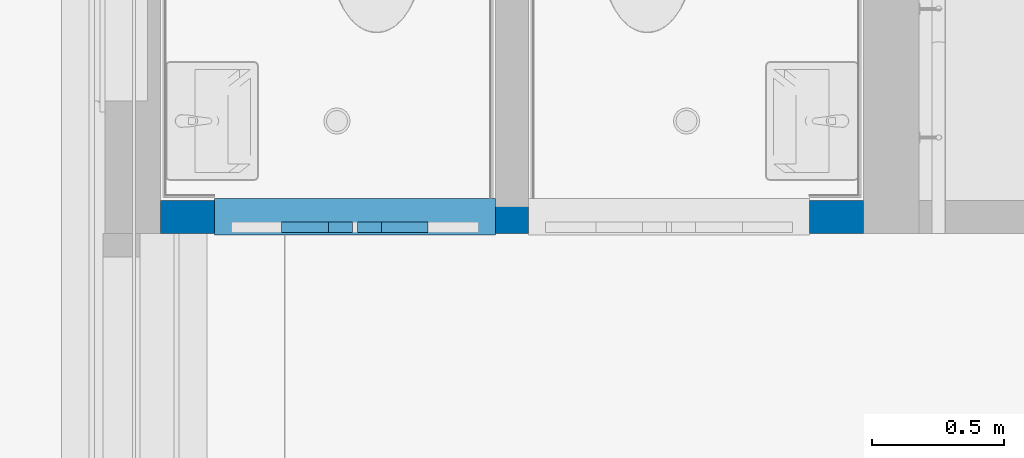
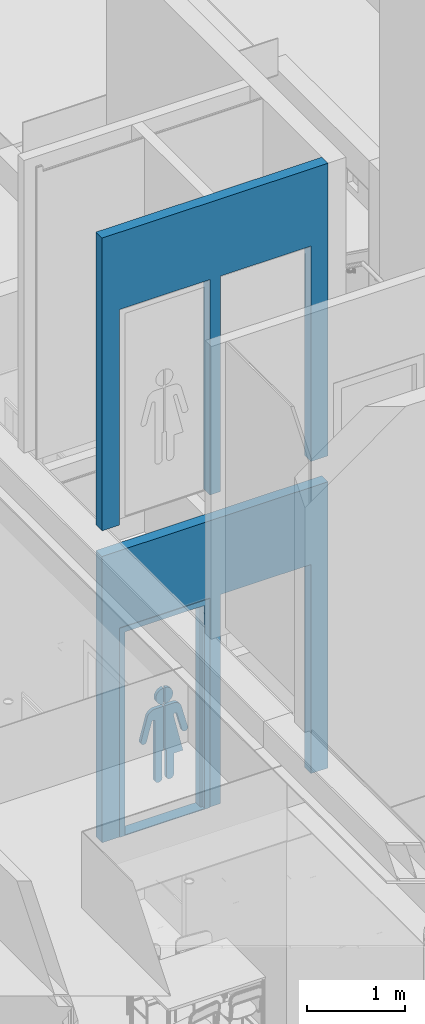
# One storey, part 54 of 347: 2 building element parts, 1 wall, 4 openings, 1 element without a shape of its own.
"""IFC2X3 building model written with IfcOpenShell, lengths in millimetres."""

from ifc_helpers import new_model, entity, si_unit, converted_unit, derived_unit, money_unit, direction, frame, origin_with_axes, place, context, subcontext, project, spatial, faceted_brep, source, transform, mapped, material, type_object, element, fill, aggregate, save


model = new_model("IFC2X3")

# Units and contexts
model_context = context("Model", 3, precision=0.01, world=origin_with_axes(), true_north=direction((0.0, 1.0)))
plan_context = context("Plan", 3, precision=0.01, world=origin_with_axes(), true_north=direction((0.0, 1.0)))
body_context = subcontext(model_context, "Body", "Model", "MODEL_VIEW")
ifc_project = project(units=[si_unit("LENGTHUNIT", "METRE", prefix="MILLI"), si_unit("AREAUNIT", "SQUARE_METRE"), si_unit("VOLUMEUNIT", "CUBIC_METRE"), converted_unit("PLANEANGLEUNIT", "DEGREE", entity("IfcPlaneAngleMeasure", 0.0174532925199), si_unit("PLANEANGLEUNIT", "RADIAN"), dimensions=[0, 0, 0, 0, 0, 0, 0]), money_unit("EUR"), converted_unit("TIMEUNIT", "Year", entity("IfcTimeMeasure", 31556926.0), si_unit("TIMEUNIT", "SECOND"), dimensions=[0, 0, 1, 0, 0, 0, 0]), si_unit("MASSUNIT", "GRAM", prefix="KILO"), si_unit("THERMODYNAMICTEMPERATUREUNIT", "DEGREE_CELSIUS"), si_unit("LUMINOUSINTENSITYUNIT", "LUMEN"), si_unit("ENERGYUNIT", "JOULE", prefix="MEGA"), derived_unit("THERMALCONDUCTANCEUNIT", [(si_unit("POWERUNIT", "WATT"), 1), (si_unit("LENGTHUNIT", "METRE"), -1), (si_unit("THERMODYNAMICTEMPERATUREUNIT", "KELVIN"), -1)]), derived_unit("SPECIFICHEATCAPACITYUNIT", [(si_unit("ENERGYUNIT", "JOULE"), 1), (si_unit("MASSUNIT", "GRAM", prefix="KILO"), -1), (si_unit("THERMODYNAMICTEMPERATUREUNIT", "KELVIN"), -1)]), derived_unit("MASSDENSITYUNIT", [(si_unit("MASSUNIT", "GRAM", prefix="KILO"), 1), (si_unit("VOLUMEUNIT", "CUBIC_METRE"), -1)])], contexts=[model_context, plan_context])

# Site, building, storey
site_placement = place(None, origin_with_axes())
site = spatial("IfcSite", under=ifc_project, at=site_placement, Name="Site", CompositionType="ELEMENT")
building_placement = place(site_placement, origin_with_axes())
building = spatial("IfcBuilding", under=site, at=building_placement, Name="Naam gebouw", CompositionType="ELEMENT")
storey_placement = place(building_placement, origin_with_axes())
storey = spatial("IfcBuildingStorey", under=building, at=storey_placement, Name="begane grond", CompositionType="ELEMENT", Elevation=0.0)

# Wall, openings, door, building element parts
ifc_material_1 = material(Name="ALG - LICHTE SCHEIDINGSWAND")
wall_type = type_object("IfcWallType", Name="ALG LSW 125 125", PredefinedType="NOTDEFINED")
wall_placement = place(storey_placement, frame((35705.0, 30074.9999277, 0.0), z_axis=(0.0, 0.0, 1.0), x_axis=(1.0, 0.0, 0.0)))
wall = element("IfcWall", 1, at=wall_placement, inside=storey, type_object=wall_type, material=ifc_material_1, Name="22_GF 125 ECO DGS/2.75.2A", context=body_context, shape_type="Brep", body=[
    faceted_brep([(1392.5, 125.0, 2600.0), (1392.5, 125.0, 0.0), (1267.5, 125.0, 0.0), (1267.5, 125.0, 2600.0), (203.5, 125.0, 2600.0), (203.5, 125.0, 0.0), (0.0, 125.0, 0.0), (0.0, 125.0, 3560.0), (2660.0, 125.0, 3560.0), (2660.0, 125.0, 0.0), (2456.5, 125.0, 0.0), (2456.5, 125.0, 2600.0), (1392.5, 0.0, 2600.0), (1392.5, 0.0, 0.0), (1267.5, 0.0, 0.0), (1267.5, 0.0, 2600.0), (203.5, 0.0, 2600.0), (203.5, 0.0, 0.0), (0.0, 0.0, 0.0), (0.0, 0.0, 3560.0), (2660.0, 0.0, 3560.0), (2660.0, 0.0, 0.0), (2456.5, 0.0, 0.0), (2456.5, 0.0, 2600.0)], [[[0, 1, 2, 3, 4, 5, 6, 7, 8, 9, 10, 11]], [[1, 0, 12, 13]], [[1, 13, 14, 2]], [[2, 14, 15, 3]], [[3, 15, 16, 4]], [[4, 16, 17, 5]], [[17, 18, 6, 5]], [[7, 6, 18, 19]], [[8, 7, 19, 20]], [[20, 21, 9, 8]], [[22, 10, 9, 21]], [[11, 10, 22, 23]], [[0, 11, 23, 12]], [[23, 22, 21, 20, 19, 18, 17, 16, 15, 14, 13, 12]]]),
    faceted_brep([(203.5, 125.0, 6560.0), (203.5, 125.0, 3960.0), (203.5, 125.0, 3880.0), (0.0, 125.0, 3880.0), (0.0, 125.0, 7520.0), (2660.0, 125.0, 7520.0), (2660.0, 125.0, 3880.0), (2456.5, 125.0, 3880.0), (2456.5, 125.0, 3960.0), (2456.5, 125.0, 6560.0), (1392.5, 125.0, 6560.0), (1392.5, 125.0, 3960.0), (1392.5, 125.0, 3880.0), (1267.5, 125.0, 3880.0), (1267.5, 125.0, 3960.0), (1267.5, 125.0, 6560.0), (203.5, 0.0, 6560.0), (203.5, 0.0, 3960.0), (203.5, 0.0, 3880.0), (0.0, 0.0, 3880.0), (0.0, 0.0, 7520.0), (2660.0, 0.0, 7520.0), (2660.0, 0.0, 3880.0), (2456.5, 0.0, 3880.0), (2456.5, 0.0, 3960.0), (2456.5, 0.0, 6560.0), (1392.5, 0.0, 6560.0), (1392.5, 0.0, 3960.0), (1392.5, 0.0, 3880.0), (1267.5, 0.0, 3880.0), (1267.5, 0.0, 3960.0), (1267.5, 0.0, 6560.0)], [[[0, 1, 2, 3, 4, 5, 6, 7, 8, 9, 10, 11, 12, 13, 14, 15]], [[1, 0, 16, 17]], [[1, 17, 18, 2]], [[18, 19, 3, 2]], [[19, 20, 4, 3]], [[4, 20, 21, 5]], [[6, 5, 21, 22]], [[7, 6, 22, 23]], [[8, 7, 23, 24]], [[8, 24, 25, 9]], [[9, 25, 26, 10]], [[10, 26, 27, 11]], [[27, 28, 12, 11]], [[28, 29, 13, 12]], [[30, 14, 13, 29]], [[15, 14, 30, 31]], [[0, 15, 31, 16]], [[31, 30, 29, 28, 27, 26, 25, 24, 23, 22, 21, 20, 19, 18, 17, 16]]]),
])
opening_1_placement = place(wall_placement, frame((735.5, 0.0, 0.0), z_axis=(0.0, 0.0, 1.0), x_axis=(1.0, 0.0, 0.0)))
opening_1 = element("IfcOpeningElement", 2, at=opening_1_placement, cuts=wall, Name="32_02.05", context=body_context, shape_type="Brep", body=[
    faceted_brep([(-532.0, 125.0, 2600.0), (-532.0, 125.0, 0.0), (-532.0, -257.0, 0.0), (-532.0, -257.0, 2600.0), (532.0, 125.0, 2600.0), (532.0, 125.0, 0.0), (532.0, -257.0, 0.0), (532.0, -257.0, 2600.0)], [[[0, 1, 2, 3]], [[0, 4, 5, 1]], [[1, 5, 6, 2]], [[3, 2, 6, 7]], [[4, 0, 3, 7]], [[5, 4, 7, 6]]]),
])
opening_2_placement = place(wall_placement, frame((1924.5, 0.0, 0.0), z_axis=(0.0, 0.0, 1.0), x_axis=(1.0, 0.0, 0.0)))
element("IfcOpeningElement", 3, at=opening_2_placement, cuts=wall, Name="32_02.05", context=body_context, shape_type="Brep", body=[
    faceted_brep([(-532.0, 125.0, 2600.0), (-532.0, 125.0, 0.0), (-532.0, -257.0, 0.0), (-532.0, -257.0, 2600.0), (532.0, 125.0, 2600.0), (532.0, 125.0, 0.0), (532.0, -257.0, 0.0), (532.0, -257.0, 2600.0)], [[[0, 1, 2, 3]], [[0, 4, 5, 1]], [[1, 5, 6, 2]], [[3, 2, 6, 7]], [[4, 0, 3, 7]], [[5, 4, 7, 6]]]),
])
opening_3_placement = place(wall_placement, frame((1924.5, 0.0, 3960.0), z_axis=(0.0, 0.0, 1.0), x_axis=(1.0, 0.0, 0.0)))
element("IfcOpeningElement", 4, at=opening_3_placement, cuts=wall, Name="32_02.05", context=body_context, shape_type="Brep", body=[
    faceted_brep([(-532.0, -125.0, 0.0), (-532.0, -125.0, 2600.0), (-532.0, 257.0, 2600.0), (-532.0, 257.0, 0.0), (532.0, -125.0, 0.0), (532.0, -125.0, 2600.0), (532.0, 257.0, 2600.0), (532.0, 257.0, 0.0)], [[[0, 1, 2, 3]], [[0, 4, 5, 1]], [[1, 5, 6, 2]], [[3, 2, 6, 7]], [[4, 0, 3, 7]], [[5, 4, 7, 6]]]),
])
opening_4_placement = place(wall_placement, frame((735.5, 0.0, 3960.0), z_axis=(0.0, 0.0, 1.0), x_axis=(1.0, 0.0, 0.0)))
element("IfcOpeningElement", 5, at=opening_4_placement, cuts=wall, Name="32_02.05", context=body_context, shape_type="Brep", body=[
    faceted_brep([(-532.0, -125.0, 0.0), (-532.0, -125.0, 2600.0), (-532.0, 257.0, 2600.0), (-532.0, 257.0, 0.0), (532.0, -125.0, 0.0), (532.0, -125.0, 2600.0), (532.0, 257.0, 2600.0), (532.0, 257.0, 0.0)], [[[0, 1, 2, 3]], [[0, 4, 5, 1]], [[1, 5, 6, 2]], [[3, 2, 6, 7]], [[4, 0, 3, 7]], [[5, 4, 7, 6]]]),
])
door_style = type_object("IfcDoorStyle", Name="D1 25", ConstructionType="NOTDEFINED", OperationType="SINGLE_SWING_RIGHT", ParameterTakesPrecedence=False, Sizeable=False)
door_placement = place(opening_1_placement, frame((532.0, 0.0, 0.0), z_axis=(0.0, 0.0, 1.0), x_axis=(-1.0, 0.0, 0.0)))
door = element("IfcDoor", 6, at=door_placement, inside=storey, type_object=door_style, Name="32_02.05", ObjectType="DOOR", OverallHeight=2600.0, OverallWidth=1064.0)
fill(opening_1, door)
shared_shape_1 = source(origin_with_axes(), body_context, "Body", "Brep", [
    faceted_brep([(-467.0, -40.0, 10.0), (-442.0, -40.0, 10.0), (-442.0, -139.0, 10.0), (442.0, -139.0, 10.0), (442.0, -40.0, 10.0), (467.0, -40.0, 10.0), (467.0, 0.0, 10.0), (-467.0, 0.0, 10.0), (-467.0, -40.0, 0.0), (-442.0, -40.0, 0.0), (-442.0, -139.0, 0.0), (442.0, -139.0, 0.0), (442.0, -40.0, 0.0), (467.0, -40.0, 0.0), (467.0, 0.0, 0.0), (-467.0, 0.0, 0.0)], [[[0, 1, 2, 3, 4, 5, 6, 7]], [[1, 0, 8, 9]], [[10, 2, 1, 9]], [[2, 10, 11, 3]], [[3, 11, 12, 4]], [[5, 4, 12, 13]], [[13, 14, 6, 5]], [[15, 7, 6, 14]], [[8, 0, 7, 15]], [[9, 8, 15, 14, 13, 12, 11, 10]]]),
    faceted_brep([(-442.0, -50.0, 0.0), (-442.0, -50.0, 2510.0), (-442.0, -139.0, 2510.0), (-442.0, -139.0, 0.0), (-467.0, -50.0, 2510.0), (-467.0, -50.0, 0.0), (-467.0, 0.0, 2510.0), (-532.0, 0.0, 2510.0), (-532.0, -139.0, 2510.0), (-532.0, -139.0, 0.0), (-532.0, 0.0, 0.0), (-467.0, 0.0, 0.0)], [[[0, 1, 2, 3]], [[4, 1, 0, 5]], [[4, 6, 7, 8, 2, 1]], [[3, 2, 8, 9]], [[5, 0, 3, 9, 10, 11]], [[6, 4, 5, 11]], [[6, 11, 10, 7]], [[10, 9, 8, 7]]]),
    faceted_brep([(467.0, -50.0, 2510.0), (442.0, -50.0, 2510.0), (442.0, -139.0, 2510.0), (532.0, -139.0, 2510.0), (532.0, 0.0, 2510.0), (467.0, 0.0, 2510.0), (467.0, -50.0, 0.0), (442.0, -50.0, 0.0), (442.0, -139.0, 0.0), (532.0, -139.0, 0.0), (532.0, 0.0, 0.0), (467.0, 0.0, 0.0)], [[[0, 1, 2, 3, 4, 5]], [[1, 0, 6, 7]], [[1, 7, 8, 2]], [[3, 2, 8, 9]], [[4, 3, 9, 10]], [[11, 5, 4, 10]], [[0, 5, 11, 6]], [[6, 11, 10, 9, 8, 7]]]),
    faceted_brep([(-467.0, 0.0, 2535.0), (-467.0, 0.0, 2510.0), (-532.0, 0.0, 2510.0), (-532.0, 0.0, 2600.0), (532.0, 0.0, 2600.0), (532.0, 0.0, 2510.0), (467.0, 0.0, 2510.0), (467.0, 0.0, 2535.0), (-467.0, -50.0, 2535.0), (-467.0, -50.0, 2510.0), (-442.0, -50.0, 2510.0), (-442.0, -139.0, 2510.0), (-532.0, -139.0, 2510.0), (-532.0, -139.0, 2600.0), (532.0, -139.0, 2600.0), (532.0, -139.0, 2510.0), (467.0, -50.0, 2510.0), (442.0, -139.0, 2510.0), (442.0, -50.0, 2510.0), (467.0, -50.0, 2535.0)], [[[0, 1, 2, 3, 4, 5, 6, 7]], [[1, 0, 8, 9]], [[9, 10, 11, 12, 2, 1]], [[2, 12, 13, 3]], [[3, 13, 14, 4]], [[4, 14, 15, 5]], [[16, 6, 5, 15, 17, 18]], [[7, 6, 16, 19]], [[0, 7, 19, 8]], [[16, 18, 10, 9, 8, 19]], [[10, 18, 17, 11]], [[17, 15, 14, 13, 12, 11]]]),
])
building_element_part_1_placement = place(door_placement, origin_with_axes())
building_element_part_1 = element("IfcBuildingElementPart", 7, at=building_element_part_1_placement, context=body_context, shape_type="MappedRepresentation", body=[
    mapped(shared_shape_1, transform((532.0, 7.0, 0.0))),
])
ifc_material_2 = material(Name="Glas sticker")
shared_shape_2 = source(origin_with_axes(), body_context, "Body", "Brep", [
    faceted_brep([(201.58891637, -10.0, 1368.954906), (201.58891637, -50.0, 1368.954906), (276.62552127, -50.0, 1088.44895872), (276.62552127, -10.0, 1088.44895872), (195.949154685, -10.0, 1385.59511164), (195.949154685, -50.0, 1385.59511164), (187.162658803, -50.0, 1400.83915132), (175.866957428, -50.0, 1414.32329606), (162.405264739, -50.0, 1425.63783693), (147.186607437, -50.0, 1434.43898735), (130.673396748, -50.0, 1440.4593288), (113.367378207, -50.0, 1443.51593625), (104.580882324, -50.0, 1443.51593625), (10.0430200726, -50.0, 1443.51593625), (10.0430200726, -50.0, 890.229090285), (25.1075218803, -50.0, 890.229090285), (25.1075218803, -50.0, 563.286854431), (24.6932816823, -50.0, 557.54197595), (25.5217620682, -50.0, 550.06099695), (27.6345513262, -50.0, 542.8377749), (30.9674534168, -50.0, 536.091783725), (35.4191998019, -50.0, 530.027996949), (40.8545264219, -50.0, 524.830659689), (47.1082836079, -50.0, 520.657690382), (53.9904541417, -50.0, 517.635882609), (61.2919267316, -50.0, 515.857052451), (68.790849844, -50.0, 515.375248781), (76.2593724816, -50.0, 516.205110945), (83.4705673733, -50.0, 518.321424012), (90.2053260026, -50.0, 521.659884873), (96.2590161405, -50.0, 526.119056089), (101.447699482, -50.0, 531.563447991), (105.613720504, -50.0, 537.827635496), (108.630496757, -50.0, 544.721284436), (110.406365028, -50.0, 552.034934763), (110.887366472, -50.0, 559.546364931), (110.473126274, -50.0, 563.286854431), (110.473126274, -50.0, 1292.61952191), (110.695072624, -50.0, 1294.3081838), (111.717711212, -50.0, 1297.5569887), (113.288023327, -50.0, 1300.57856146), (115.358295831, -50.0, 1303.2810931), (117.865624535, -50.0, 1305.58246859), (120.733825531, -50.0, 1307.41276178), (123.875749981, -50.0, 1308.71636013), (127.195932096, -50.0, 1309.45365449), (130.593489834, -50.0, 1309.60224253), (133.965190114, -50.0, 1309.15760948), (137.208585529, -50.0, 1308.13326528), (140.225127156, -50.0, 1306.56033414), (142.923158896, -50.0, 1304.48660874), (145.220702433, -50.0, 1301.97509819), (147.047948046, -50.0, 1299.10211348), (148.349375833, -50.0, 1295.95494878), (149.011836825, -50.0, 1292.61952191), (207.923578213, -50.0, 1073.19870026), (208.722214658, -50.0, 1070.21469297), (211.322258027, -50.0, 1064.63143877), (214.850708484, -50.0, 1059.58525256), (219.200355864, -50.0, 1055.22946015), (224.239038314, -50.0, 1051.6964101), (229.813658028, -50.0, 1049.09345233), (235.754833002, -50.0, 1047.49967641), (241.882043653, -50.0, 1046.96350842), (248.009117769, -50.0, 1047.50123953), (253.949887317, -50.0, 1049.09653107), (259.523845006, -50.0, 1051.70091091), (264.561628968, -50.0, 1055.23524628), (268.910168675, -50.0, 1059.59214821), (272.437335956, -50.0, 1064.63923441), (275.035959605, -50.0, 1070.22315174), (276.627081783, -50.0, 1076.17423568), (277.162357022, -50.0, 1082.31166558), (277.162357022, -10.0, 1082.31166558), (276.627081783, -10.0, 1076.17423568), (275.035959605, -10.0, 1070.22315174), (272.437335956, -10.0, 1064.63923441), (268.910168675, -10.0, 1059.59214821), (264.561628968, -10.0, 1055.23524628), (259.523845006, -10.0, 1051.70091091), (253.949887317, -10.0, 1049.09653107), (248.009117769, -10.0, 1047.50123953), (241.882043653, -10.0, 1046.96350842), (235.754833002, -10.0, 1047.49967641), (229.813658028, -10.0, 1049.09345233), (224.239038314, -10.0, 1051.6964101), (219.200355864, -10.0, 1055.22946015), (214.850708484, -10.0, 1059.58525256), (211.322258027, -10.0, 1064.63143877), (208.722214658, -10.0, 1070.21469297), (207.923578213, -10.0, 1073.19870026), (149.011836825, -10.0, 1292.61952191), (148.349375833, -10.0, 1295.95494878), (147.047948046, -10.0, 1299.10211348), (145.220702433, -10.0, 1301.97509819), (142.923158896, -10.0, 1304.48660874), (140.225127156, -10.0, 1306.56033414), (137.208585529, -10.0, 1308.13326528), (133.965190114, -10.0, 1309.15760948), (130.593489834, -10.0, 1309.60224253), (127.195932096, -10.0, 1309.45365449), (123.875749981, -10.0, 1308.71636013), (120.733825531, -10.0, 1307.41276178), (117.865624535, -10.0, 1305.58246859), (115.358295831, -10.0, 1303.2810931), (113.288023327, -10.0, 1300.57856146), (111.717711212, -10.0, 1297.5569887), (110.695072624, -10.0, 1294.3081838), (110.473126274, -10.0, 1292.61952191), (110.473126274, -10.0, 563.286854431), (110.887366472, -10.0, 559.546364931), (110.406365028, -10.0, 552.034934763), (108.630496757, -10.0, 544.721284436), (105.613720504, -10.0, 537.827635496), (101.447699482, -10.0, 531.563447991), (96.2590161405, -10.0, 526.119056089), (90.2053260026, -10.0, 521.659884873), (83.4705673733, -10.0, 518.321424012), (76.2593724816, -10.0, 516.205110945), (68.790849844, -10.0, 515.375248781), (61.2919267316, -10.0, 515.857052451), (53.9904541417, -10.0, 517.635882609), (47.1082836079, -10.0, 520.657690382), (40.8545264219, -10.0, 524.830659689), (35.4191998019, -10.0, 530.027996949), (30.9674534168, -10.0, 536.091783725), (27.6345513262, -10.0, 542.8377749), (25.5217620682, -10.0, 550.06099695), (24.6932816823, -10.0, 557.54197595), (25.1075218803, -10.0, 563.286854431), (25.1075218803, -10.0, 890.229090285), (10.0430200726, -10.0, 890.229090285), (10.0430200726, -10.0, 1443.51593625), (104.580882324, -10.0, 1443.51593625), (113.367378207, -10.0, 1443.51593625), (130.673396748, -10.0, 1440.4593288), (147.186607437, -10.0, 1434.43898735), (162.405264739, -10.0, 1425.63783693), (175.866957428, -10.0, 1414.32329606), (187.162658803, -10.0, 1400.83915132)], [[[0, 1, 2, 3]], [[4, 5, 1, 0]], [[1, 5, 6, 7, 8, 9, 10, 11, 12, 13, 14, 15, 16, 17, 18, 19, 20, 21, 22, 23, 24, 25, 26, 27, 28, 29, 30, 31, 32, 33, 34, 35, 36, 37, 38, 39, 40, 41, 42, 43, 44, 45, 46, 47, 48, 49, 50, 51, 52, 53, 54, 55, 56, 57, 58, 59, 60, 61, 62, 63, 64, 65, 66, 67, 68, 69, 70, 71, 72, 2]], [[3, 2, 72, 73]], [[0, 3, 73, 74, 75, 76, 77, 78, 79, 80, 81, 82, 83, 84, 85, 86, 87, 88, 89, 90, 91, 92, 93, 94, 95, 96, 97, 98, 99, 100, 101, 102, 103, 104, 105, 106, 107, 108, 109, 110, 111, 112, 113, 114, 115, 116, 117, 118, 119, 120, 121, 122, 123, 124, 125, 126, 127, 128, 129, 130, 131, 132, 133, 134, 135, 136, 137, 138, 139, 4]], [[139, 6, 5, 4]], [[138, 7, 6, 139]], [[137, 8, 7, 138]], [[136, 9, 8, 137]], [[135, 10, 9, 136]], [[134, 11, 10, 135]], [[133, 12, 11, 134]], [[132, 13, 12, 133]], [[131, 14, 13, 132]], [[130, 15, 14, 131]], [[129, 16, 15, 130]], [[128, 17, 16, 129]], [[127, 18, 17, 128]], [[126, 19, 18, 127]], [[125, 20, 19, 126]], [[124, 21, 20, 125]], [[123, 22, 21, 124]], [[122, 23, 22, 123]], [[121, 24, 23, 122]], [[120, 25, 24, 121]], [[119, 26, 25, 120]], [[118, 27, 26, 119]], [[117, 28, 27, 118]], [[116, 29, 28, 117]], [[115, 30, 29, 116]], [[114, 31, 30, 115]], [[113, 32, 31, 114]], [[112, 33, 32, 113]], [[111, 34, 33, 112]], [[110, 35, 34, 111]], [[109, 36, 35, 110]], [[108, 37, 36, 109]], [[107, 38, 37, 108]], [[106, 39, 38, 107]], [[105, 40, 39, 106]], [[104, 41, 40, 105]], [[103, 42, 41, 104]], [[102, 43, 42, 103]], [[101, 44, 43, 102]], [[100, 45, 44, 101]], [[99, 46, 45, 100]], [[98, 47, 46, 99]], [[97, 48, 47, 98]], [[96, 49, 48, 97]], [[95, 50, 49, 96]], [[94, 51, 50, 95]], [[93, 52, 51, 94]], [[92, 53, 52, 93]], [[91, 54, 53, 92]], [[90, 55, 54, 91]], [[89, 56, 55, 90]], [[88, 57, 56, 89]], [[87, 58, 57, 88]], [[86, 59, 58, 87]], [[85, 60, 59, 86]], [[84, 61, 60, 85]], [[83, 62, 61, 84]], [[82, 63, 62, 83]], [[81, 64, 63, 82]], [[80, 65, 64, 81]], [[79, 66, 65, 80]], [[78, 67, 66, 79]], [[77, 68, 67, 78]], [[76, 69, 68, 77]], [[75, 70, 69, 76]], [[74, 71, 70, 75]], [[73, 72, 71, 74]]]),
    faceted_brep([(-10.0430200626, -10.0, 890.229090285), (-10.0430200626, -50.0, 890.229090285), (-25.1075218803, -50.0, 890.229090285), (-25.1075218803, -10.0, 890.229090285), (-10.0430200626, -10.0, 1443.51593625), (-10.0430200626, -50.0, 1443.51593625), (-104.580882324, -50.0, 1443.51593625), (-122.087001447, -50.0, 1442.36606156), (-139.061208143, -50.0, 1437.81025123), (-154.98774758, -50.0, 1430.37119778), (-169.382699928, -50.0, 1420.27493311), (-181.808681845, -50.0, 1407.82822709), (-191.888136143, -50.0, 1393.40926659), (-199.31480372, -50.0, 1377.45616444), (-201.58891637, -50.0, 1368.954906), (-275.831520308, -50.0, 1091.41563724), (-276.62708117, -50.0, 1088.44009521), (-277.162355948, -50.0, 1082.30266527), (-276.625519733, -50.0, 1076.16537218), (-275.032884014, -50.0, 1070.21469446), (-272.432840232, -50.0, 1064.63144045), (-268.904389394, -50.0, 1059.58525451), (-264.554741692, -50.0, 1055.22946244), (-259.516058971, -50.0, 1051.69641276), (-253.941439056, -50.0, 1049.09345542), (-248.000263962, -50.0, 1047.49967995), (-241.873053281, -50.0, 1046.96351241), (-235.745979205, -50.0, 1047.50124399), (-229.805209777, -50.0, 1049.09653598), (-224.231252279, -50.0, 1051.70091623), (-219.193468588, -50.0, 1055.235252), (-214.844929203, -50.0, 1059.59215425), (-211.317762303, -50.0, 1064.63924071), (-208.719139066, -50.0, 1070.22315824), (-207.923578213, -50.0, 1073.19870027), (-149.227842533, -50.0, 1292.61952191), (-149.003554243, -50.0, 1294.42542469), (-147.935653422, -50.0, 1297.90433437), (-146.280875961, -50.0, 1301.14464328), (-144.089501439, -50.0, 1304.04789628), (-141.428113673, -50.0, 1306.52587948), (-138.377577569, -50.0, 1308.50330061), (-135.030582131, -50.0, 1309.92007677), (-131.488824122, -50.0, 1310.73315989), (-127.859918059, -50.0, 1310.91784487), (-124.254126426, -50.0, 1310.46852015), (-120.781009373, -50.0, 1309.39883823), (-117.546095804, -50.0, 1307.74130085), (-114.647676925, -50.0, 1305.54627145), (-112.173819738, -50.0, 1302.8804449), (-110.199691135, -50.0, 1299.82482097), (-108.785274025, -50.0, 1296.47224326), (-108.013455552, -50.0, 1292.61952191), (-219.866038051, -50.0, 814.780876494), (-110.473126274, -50.0, 814.780876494), (-110.473126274, -50.0, 563.286854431), (-110.887366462, -50.0, 557.54197595), (-110.058886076, -50.0, 550.06099695), (-107.946096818, -50.0, 542.8377749), (-104.613194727, -50.0, 536.091783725), (-100.161448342, -50.0, 530.027996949), (-94.7261217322, -50.0, 524.830659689), (-88.4723645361, -50.0, 520.657690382), (-81.5901940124, -50.0, 517.635882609), (-74.2887214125, -50.0, 515.857052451), (-66.7897983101, -50.0, 515.375248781), (-59.3212756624, -50.0, 516.205110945), (-52.1100807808, -50.0, 518.321424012), (-45.3753221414, -50.0, 521.659884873), (-39.3216320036, -50.0, 526.119056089), (-34.1329486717, -50.0, 531.563447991), (-29.9669276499, -50.0, 537.827635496), (-26.9501513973, -50.0, 544.721284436), (-25.1742831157, -50.0, 552.034934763), (-24.6932816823, -50.0, 559.546364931), (-25.1075218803, -50.0, 563.286854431), (-25.1075218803, -10.0, 563.286854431), (-24.6932816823, -10.0, 559.546364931), (-25.1742831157, -10.0, 552.034934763), (-26.9501513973, -10.0, 544.721284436), (-29.9669276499, -10.0, 537.827635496), (-34.1329486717, -10.0, 531.563447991), (-39.3216320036, -10.0, 526.119056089), (-45.3753221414, -10.0, 521.659884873), (-52.1100807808, -10.0, 518.321424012), (-59.3212756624, -10.0, 516.205110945), (-66.7897983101, -10.0, 515.375248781), (-74.2887214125, -10.0, 515.857052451), (-81.5901940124, -10.0, 517.635882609), (-88.4723645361, -10.0, 520.657690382), (-94.7261217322, -10.0, 524.830659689), (-100.161448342, -10.0, 530.027996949), (-104.613194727, -10.0, 536.091783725), (-107.946096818, -10.0, 542.8377749), (-110.058886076, -10.0, 550.06099695), (-110.887366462, -10.0, 557.54197595), (-110.473126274, -10.0, 563.286854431), (-110.473126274, -10.0, 814.780876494), (-219.866038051, -10.0, 814.780876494), (-108.013455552, -10.0, 1292.61952191), (-108.785274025, -10.0, 1296.47224326), (-110.199691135, -10.0, 1299.82482097), (-112.173819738, -10.0, 1302.8804449), (-114.647676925, -10.0, 1305.54627145), (-117.546095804, -10.0, 1307.74130085), (-120.781009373, -10.0, 1309.39883823), (-124.254126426, -10.0, 1310.46852015), (-127.859918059, -10.0, 1310.91784487), (-131.488824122, -10.0, 1310.73315989), (-135.030582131, -10.0, 1309.92007677), (-138.377577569, -10.0, 1308.50330061), (-141.428113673, -10.0, 1306.52587948), (-144.089501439, -10.0, 1304.04789628), (-146.280875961, -10.0, 1301.14464328), (-147.935653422, -10.0, 1297.90433437), (-149.003554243, -10.0, 1294.42542469), (-149.227842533, -10.0, 1292.61952191), (-207.923578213, -10.0, 1073.19870027), (-208.719139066, -10.0, 1070.22315824), (-211.317762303, -10.0, 1064.63924071), (-214.844929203, -10.0, 1059.59215425), (-219.193468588, -10.0, 1055.235252), (-224.231252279, -10.0, 1051.70091623), (-229.805209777, -10.0, 1049.09653598), (-235.745979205, -10.0, 1047.50124399), (-241.873053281, -10.0, 1046.96351241), (-248.000263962, -10.0, 1047.49967995), (-253.941439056, -10.0, 1049.09345542), (-259.516058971, -10.0, 1051.69641276), (-264.554741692, -10.0, 1055.22946244), (-268.904389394, -10.0, 1059.58525451), (-272.432840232, -10.0, 1064.63144045), (-275.032884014, -10.0, 1070.21469446), (-276.625519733, -10.0, 1076.16537218), (-277.162355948, -10.0, 1082.30266527), (-276.62708117, -10.0, 1088.44009521), (-275.831520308, -10.0, 1091.41563724), (-201.58891637, -10.0, 1368.954906), (-199.31480372, -10.0, 1377.45616444), (-191.888136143, -10.0, 1393.40926659), (-181.808681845, -10.0, 1407.82822709), (-169.382699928, -10.0, 1420.27493311), (-154.98774758, -10.0, 1430.37119778), (-139.061208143, -10.0, 1437.81025123), (-122.087001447, -10.0, 1442.36606156), (-104.580882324, -10.0, 1443.51593625)], [[[0, 1, 2, 3]], [[4, 5, 1, 0]], [[1, 5, 6, 7, 8, 9, 10, 11, 12, 13, 14, 15, 16, 17, 18, 19, 20, 21, 22, 23, 24, 25, 26, 27, 28, 29, 30, 31, 32, 33, 34, 35, 36, 37, 38, 39, 40, 41, 42, 43, 44, 45, 46, 47, 48, 49, 50, 51, 52, 53, 54, 55, 56, 57, 58, 59, 60, 61, 62, 63, 64, 65, 66, 67, 68, 69, 70, 71, 72, 73, 74, 75, 2]], [[3, 2, 75, 76]], [[0, 3, 76, 77, 78, 79, 80, 81, 82, 83, 84, 85, 86, 87, 88, 89, 90, 91, 92, 93, 94, 95, 96, 97, 98, 99, 100, 101, 102, 103, 104, 105, 106, 107, 108, 109, 110, 111, 112, 113, 114, 115, 116, 117, 118, 119, 120, 121, 122, 123, 124, 125, 126, 127, 128, 129, 130, 131, 132, 133, 134, 135, 136, 137, 138, 139, 140, 141, 142, 143, 144, 145, 4]], [[145, 6, 5, 4]], [[144, 7, 6, 145]], [[143, 8, 7, 144]], [[142, 9, 8, 143]], [[141, 10, 9, 142]], [[140, 11, 10, 141]], [[139, 12, 11, 140]], [[138, 13, 12, 139]], [[137, 14, 13, 138]], [[136, 15, 14, 137]], [[135, 16, 15, 136]], [[134, 17, 16, 135]], [[133, 18, 17, 134]], [[132, 19, 18, 133]], [[131, 20, 19, 132]], [[130, 21, 20, 131]], [[129, 22, 21, 130]], [[128, 23, 22, 129]], [[127, 24, 23, 128]], [[126, 25, 24, 127]], [[125, 26, 25, 126]], [[124, 27, 26, 125]], [[123, 28, 27, 124]], [[122, 29, 28, 123]], [[121, 30, 29, 122]], [[120, 31, 30, 121]], [[119, 32, 31, 120]], [[118, 33, 32, 119]], [[117, 34, 33, 118]], [[116, 35, 34, 117]], [[115, 36, 35, 116]], [[114, 37, 36, 115]], [[113, 38, 37, 114]], [[112, 39, 38, 113]], [[111, 40, 39, 112]], [[110, 41, 40, 111]], [[109, 42, 41, 110]], [[108, 43, 42, 109]], [[107, 44, 43, 108]], [[106, 45, 44, 107]], [[105, 46, 45, 106]], [[104, 47, 46, 105]], [[103, 48, 47, 104]], [[102, 49, 48, 103]], [[101, 50, 49, 102]], [[100, 51, 50, 101]], [[99, 52, 51, 100]], [[98, 53, 52, 99]], [[97, 54, 53, 98]], [[96, 55, 54, 97]], [[95, 56, 55, 96]], [[94, 57, 56, 95]], [[93, 58, 57, 94]], [[92, 59, 58, 93]], [[91, 60, 59, 92]], [[90, 61, 60, 91]], [[89, 62, 61, 90]], [[88, 63, 62, 89]], [[87, 64, 63, 88]], [[86, 65, 64, 87]], [[85, 66, 65, 86]], [[84, 67, 66, 85]], [[83, 68, 67, 84]], [[82, 69, 68, 83]], [[81, 70, 69, 82]], [[80, 71, 70, 81]], [[79, 72, 71, 80]], [[78, 73, 72, 79]], [[77, 74, 73, 78]], [[76, 75, 74, 77]]]),
    faceted_brep([(-10.0430200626, -10.0, 1669.35630499), (-10.0430200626, -50.0, 1669.35630499), (-10.0430200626, -50.0, 1469.16959144), (-10.0430200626, -10.0, 1469.16959144), (-26.0925144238, -10.0, 1666.80395031), (-26.0925144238, -50.0, 1666.80395031), (-42.6057251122, -50.0, 1660.78360886), (-57.8243824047, -50.0, 1651.98245845), (-71.2860751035, -50.0, 1640.66791757), (-82.5817764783, -50.0, 1627.18377283), (-91.368272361, -50.0, 1611.93973315), (-97.3785895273, -50.0, 1595.39898096), (-100.430107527, -50.0, 1578.06409863), (-100.430107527, -50.0, 1569.26294821), (-99.4997261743, -50.0, 1553.01203348), (-95.1708587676, -50.0, 1535.9521583), (-87.9502729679, -50.0, 1519.90441461), (-78.0573626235, -50.0, 1505.35640498), (-65.7927188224, -50.0, 1492.75016333), (-51.5289965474, -50.0, 1482.46872393), (-35.6995917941, -50.0, 1474.82448312), (-18.7854730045, -50.0, 1470.04970729), (-18.7854730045, -10.0, 1470.04970729), (-35.6995917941, -10.0, 1474.82448312), (-51.5289965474, -10.0, 1482.46872393), (-65.7927188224, -10.0, 1492.75016333), (-78.0573626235, -10.0, 1505.35640498), (-87.9502729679, -10.0, 1519.90441461), (-95.1708587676, -10.0, 1535.9521583), (-99.4997261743, -10.0, 1553.01203348), (-100.430107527, -10.0, 1569.26294821), (-100.430107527, -10.0, 1578.06409863), (-97.3785895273, -10.0, 1595.39898096), (-91.368272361, -10.0, 1611.93973315), (-82.5817764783, -10.0, 1627.18377283), (-71.2860751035, -10.0, 1640.66791757), (-57.8243824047, -10.0, 1651.98245845), (-42.6057251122, -10.0, 1660.78360886)], [[[0, 1, 2, 3]], [[4, 5, 1, 0]], [[1, 5, 6, 7, 8, 9, 10, 11, 12, 13, 14, 15, 16, 17, 18, 19, 20, 21, 2]], [[3, 2, 21, 22]], [[0, 3, 22, 23, 24, 25, 26, 27, 28, 29, 30, 31, 32, 33, 34, 35, 36, 37, 4]], [[37, 6, 5, 4]], [[36, 7, 6, 37]], [[35, 8, 7, 36]], [[34, 9, 8, 35]], [[33, 10, 9, 34]], [[32, 11, 10, 33]], [[31, 12, 11, 32]], [[30, 13, 12, 31]], [[29, 14, 13, 30]], [[28, 15, 14, 29]], [[27, 16, 15, 28]], [[26, 17, 16, 27]], [[25, 18, 17, 26]], [[24, 19, 18, 25]], [[23, 20, 19, 24]], [[22, 21, 20, 23]]]),
    faceted_brep([(10.0430200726, -10.0, 1669.35630499), (10.0430200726, -50.0, 1669.35630499), (18.7854730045, -50.0, 1668.47618914), (18.7854730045, -10.0, 1668.47618914), (10.0430200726, -10.0, 1469.16959144), (10.0430200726, -50.0, 1469.16959144), (26.0925144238, -50.0, 1471.72194611), (42.6057251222, -50.0, 1477.74228756), (57.8243824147, -50.0, 1486.54343798), (71.2860751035, -50.0, 1497.85797885), (82.5817764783, -50.0, 1511.34212359), (91.368272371, -50.0, 1526.58616327), (97.3785895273, -50.0, 1543.12691547), (100.430107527, -50.0, 1560.4617978), (100.430107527, -50.0, 1569.26294821), (99.4997261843, -50.0, 1585.51386294), (95.1708587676, -50.0, 1602.57373813), (87.9502729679, -50.0, 1618.62148182), (78.0573626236, -50.0, 1633.16949145), (65.7927188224, -50.0, 1645.77573309), (51.5289965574, -50.0, 1656.05717249), (35.6995917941, -50.0, 1663.7014133), (35.6995917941, -10.0, 1663.7014133), (51.5289965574, -10.0, 1656.05717249), (65.7927188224, -10.0, 1645.77573309), (78.0573626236, -10.0, 1633.16949145), (87.9502729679, -10.0, 1618.62148182), (95.1708587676, -10.0, 1602.57373813), (99.4997261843, -10.0, 1585.51386294), (100.430107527, -10.0, 1569.26294821), (100.430107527, -10.0, 1560.4617978), (97.3785895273, -10.0, 1543.12691547), (91.368272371, -10.0, 1526.58616327), (82.5817764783, -10.0, 1511.34212359), (71.2860751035, -10.0, 1497.85797885), (57.8243824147, -10.0, 1486.54343798), (42.6057251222, -10.0, 1477.74228756), (26.0925144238, -10.0, 1471.72194611)], [[[0, 1, 2, 3]], [[4, 5, 1, 0]], [[1, 5, 6, 7, 8, 9, 10, 11, 12, 13, 14, 15, 16, 17, 18, 19, 20, 21, 2]], [[3, 2, 21, 22]], [[0, 3, 22, 23, 24, 25, 26, 27, 28, 29, 30, 31, 32, 33, 34, 35, 36, 37, 4]], [[37, 6, 5, 4]], [[36, 7, 6, 37]], [[35, 8, 7, 36]], [[34, 9, 8, 35]], [[33, 10, 9, 34]], [[32, 11, 10, 33]], [[31, 12, 11, 32]], [[30, 13, 12, 31]], [[29, 14, 13, 30]], [[28, 15, 14, 29]], [[27, 16, 15, 28]], [[26, 17, 16, 27]], [[25, 18, 17, 26]], [[24, 19, 18, 25]], [[23, 20, 19, 24]], [[22, 21, 20, 23]]]),
])
building_element_part_2_placement = place(door_placement, origin_with_axes())
building_element_part_2 = element("IfcBuildingElementPart", 8, at=building_element_part_2_placement, material=ifc_material_2, Name="Glas sticker", context=body_context, shape_type="MappedRepresentation", body=[
    mapped(shared_shape_2, transform((532.0, 7.0, 0.0))),
])
aggregate(door, [building_element_part_1, building_element_part_2])

save(model, "model.ifc")
